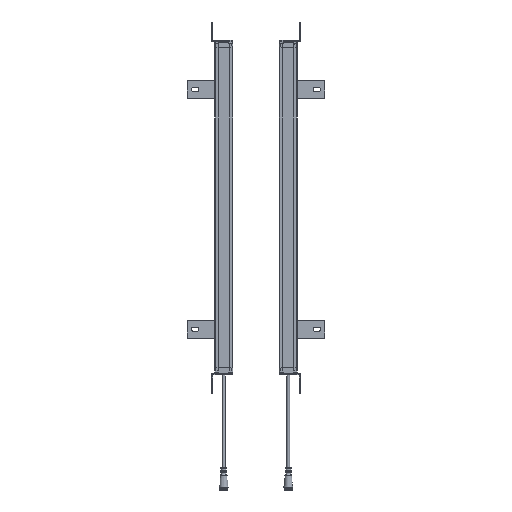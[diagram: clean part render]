
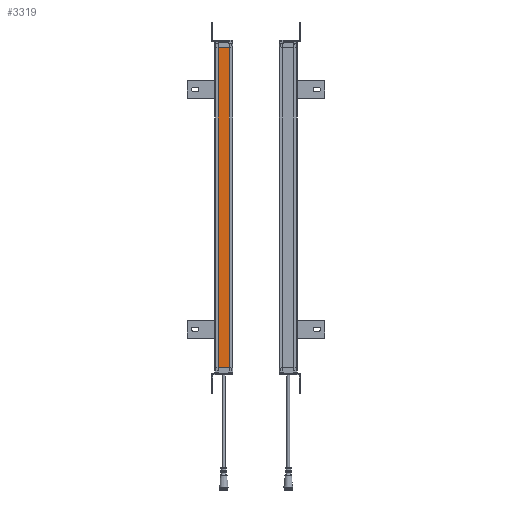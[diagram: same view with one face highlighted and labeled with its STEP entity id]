
A CAD part, left-side view. The second image highlights one B-rep face of the part: STEP entity #3319.
In plain terms, the highlighted planar face has unit normal (-1, 0, 0).
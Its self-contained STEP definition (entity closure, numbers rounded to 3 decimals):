
#1795=FACE_OUTER_BOUND('',#5986,.T.);
#3319=ADVANCED_FACE('',(#1795),#4749,.T.);
#4749=PLANE('',#29857);
#5986=EDGE_LOOP('',(#9184,#9185,#9186,#9187));
#9184=ORIENTED_EDGE('',*,*,#19383,.F.);
#9185=ORIENTED_EDGE('',*,*,#19072,.T.);
#9186=ORIENTED_EDGE('',*,*,#19385,.T.);
#9187=ORIENTED_EDGE('',*,*,#19386,.F.);
#16145=VERTEX_POINT('',#43699);
#16146=VERTEX_POINT('',#43701);
#16357=VERTEX_POINT('',#44323);
#16358=VERTEX_POINT('',#44327);
#19072=EDGE_CURVE('',#16146,#16145,#24663,.T.);
#19383=EDGE_CURVE('',#16146,#16357,#24884,.T.);
#19385=EDGE_CURVE('',#16145,#16358,#24886,.T.);
#19386=EDGE_CURVE('',#16357,#16358,#24887,.T.);
#24663=LINE('',#43700,#27142);
#24884=LINE('',#44322,#27363);
#24886=LINE('',#44326,#27365);
#24887=LINE('',#44328,#27366);
#27142=VECTOR('',#33404,1.);
#27363=VECTOR('',#34005,1.);
#27365=VECTOR('',#34009,1.);
#27366=VECTOR('',#34010,1.);
#29857=AXIS2_PLACEMENT_3D('',#44329,#34011,#34012);
#33404=DIRECTION('',(0.,1.,0.));
#34005=DIRECTION('',(0.,0.,-1.));
#34009=DIRECTION('',(0.,0.,-1.));
#34010=DIRECTION('',(0.,1.,0.));
#34011=DIRECTION('',(-1.,0.,0.));
#34012=DIRECTION('',(0.,1.,0.));
#43699=CARTESIAN_POINT('',(50.4,-5.5,478.059));
#43700=CARTESIAN_POINT('',(50.4,-5.5,478.059));
#43701=CARTESIAN_POINT('',(50.4,-23.5,478.059));
#44322=CARTESIAN_POINT('',(50.4,-23.5,103.059));
#44323=CARTESIAN_POINT('',(50.4,-23.5,-41.941));
#44326=CARTESIAN_POINT('',(50.4,-5.5,103.059));
#44327=CARTESIAN_POINT('',(50.4,-5.5,-41.941));
#44328=CARTESIAN_POINT('',(50.4,-23.5,-41.941));
#44329=CARTESIAN_POINT('',(50.4,-5.5,-61.941));
